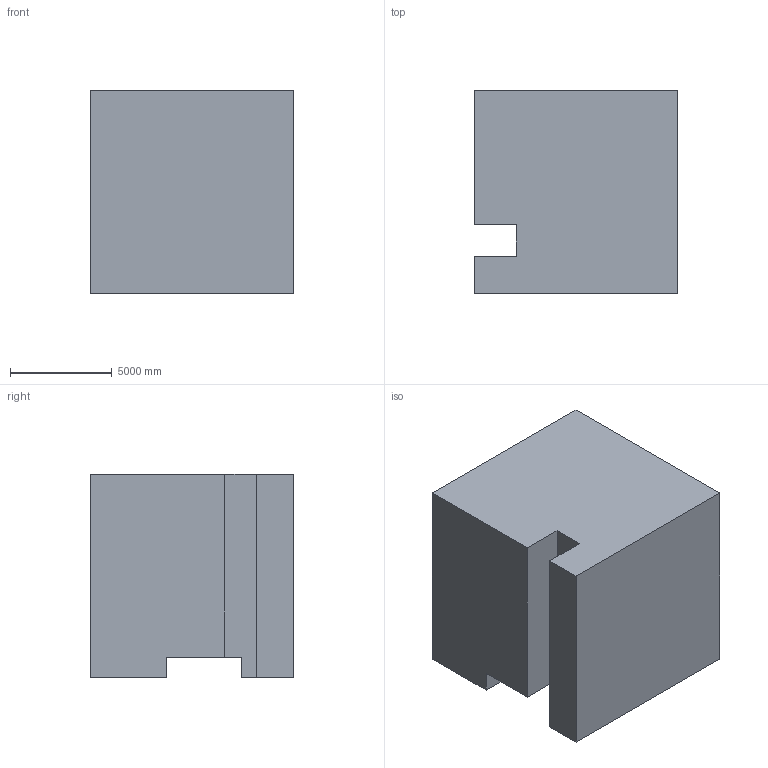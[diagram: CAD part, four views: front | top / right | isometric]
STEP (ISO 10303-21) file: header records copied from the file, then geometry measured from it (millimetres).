
FILE_DESCRIPTION (( 'STEP AP203' ), '1' );
FILE_NAME ('131.STEP', '2022-07-28T13:41:41', ( 'user' ), ( '' ), 'SwSTEP 2.0', 'SolidWorks 2021', '' );
FILE_SCHEMA (( 'CONFIG_CONTROL_DESIGN' ));
Length unit declared in the file: centimetre
Products named in the file (1): 131
Bounding box: 10000 x 10000 x 10000 mm (x, y, z)
Volume: 932458348240.2 mm3; surface area: 643439255 mm2
Topology: 1 solids, 1 shells, 14 faces, 36 edges, 24 vertices
Faces by surface type: plane 14
Entity records: 497 total; most frequent: CARTESIAN_POINT 75, ORIENTED_EDGE 72, DIRECTION 66, VECTOR 36, LINE 36, EDGE_CURVE 36, VERTEX_POINT 24, AXIS2_PLACEMENT_3D 15
